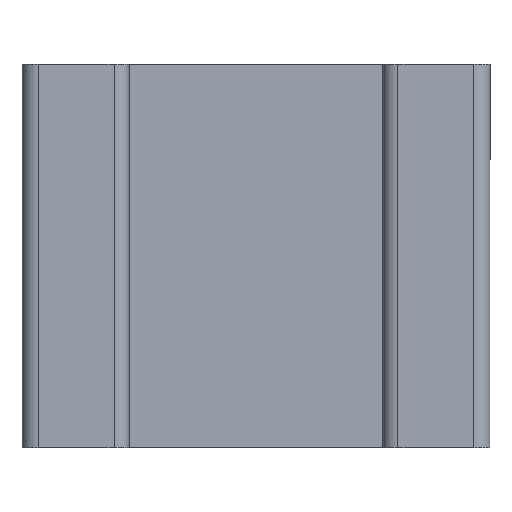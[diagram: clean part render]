
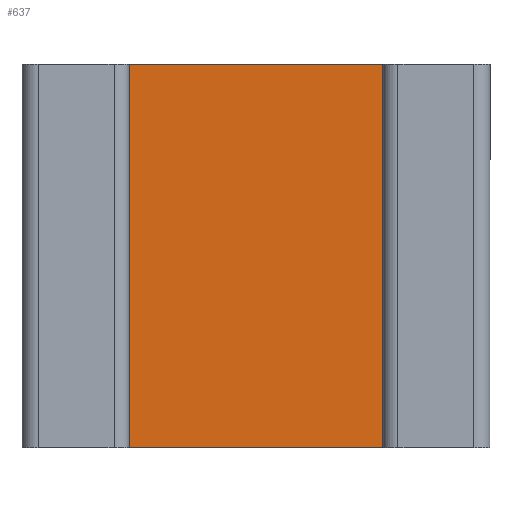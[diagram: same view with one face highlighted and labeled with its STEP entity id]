
A CAD part, front view. The second image highlights one B-rep face of the part: STEP entity #637.
In plain terms, the highlighted planar face has unit normal (0, -1, 0).
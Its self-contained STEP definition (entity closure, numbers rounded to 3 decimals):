
#1 = LINE ( 'NONE', #57, #556 ) ;
#16 = DIRECTION ( 'NONE',  ( 0., 0., 1. ) ) ;
#57 = CARTESIAN_POINT ( 'NONE',  ( -0.724, 0., -0.635 ) ) ;
#78 = FACE_OUTER_BOUND ( 'NONE', #264, .T. ) ;
#96 = EDGE_CURVE ( 'Defeatured_0_19+Defeatured_0_0+Defeatured_0_2+Defeatured_0_1', #231, #763, #527, .T. ) ;
#132 = CARTESIAN_POINT ( 'NONE',  ( 0.419, 0., -0.635 ) ) ;
#147 = VERTEX_POINT ( 'NONE', #483 ) ;
#200 = CARTESIAN_POINT ( 'NONE',  ( -0.419, 0., 0.635 ) ) ;
#231 = VERTEX_POINT ( 'NONE', #586 ) ;
#250 = CARTESIAN_POINT ( 'NONE',  ( -0.724, 0., 0.635 ) ) ;
#263 = ORIENTED_EDGE ( 'NONE', *, *, #96, .F. ) ;
#264 = EDGE_LOOP ( 'NONE', ( #361, #298, #263, #579 ) ) ;
#270 = EDGE_CURVE ( 'Defeatured_0_1+Defeatured_0_0+Defeatured_0_19+Defeatured_0_18', #763, #147, #770, .T. ) ;
#277 = DIRECTION ( 'NONE',  ( 0., 1., 0. ) ) ;
#298 = ORIENTED_EDGE ( 'NONE', *, *, #270, .F. ) ;
#331 = DIRECTION ( 'NONE',  ( 0., 0., -1. ) ) ;
#357 = VECTOR ( 'NONE', #331, 1000. ) ;
#361 = ORIENTED_EDGE ( 'NONE', *, *, #668, .F. ) ;
#384 = DIRECTION ( 'NONE',  ( 1., 0., 0. ) ) ;
#434 = VECTOR ( 'NONE', #384, 1000. ) ;
#437 = VECTOR ( 'NONE', #457, 1000. ) ;
#457 = DIRECTION ( 'NONE',  ( 0., 0., 1. ) ) ;
#461 = CARTESIAN_POINT ( 'NONE',  ( 0.419, 0., -0.635 ) ) ;
#464 = AXIS2_PLACEMENT_3D ( 'NONE', #658, #277, #16 ) ;
#470 = PLANE ( 'NONE',  #464 ) ;
#483 = CARTESIAN_POINT ( 'NONE',  ( 0.419, 0., 0.635 ) ) ;
#519 = EDGE_CURVE ( 'Defeatured_0_2+Defeatured_0_0+Defeatured_0_18+Defeatured_0_19', #736, #231, #1, .T. ) ;
#527 = LINE ( 'NONE', #713, #437 ) ;
#556 = VECTOR ( 'NONE', #561, 1000. ) ;
#561 = DIRECTION ( 'NONE',  ( -1., 0., 0. ) ) ;
#579 = ORIENTED_EDGE ( 'NONE', *, *, #519, .F. ) ;
#586 = CARTESIAN_POINT ( 'NONE',  ( -0.419, 0., -0.635 ) ) ;
#637 = ADVANCED_FACE ( 'Defeatured_0_0', ( #78 ), #470, .F. ) ;
#658 = CARTESIAN_POINT ( 'NONE',  ( 0., 0., 0. ) ) ;
#668 = EDGE_CURVE ( 'Defeatured_0_18+Defeatured_0_0+Defeatured_0_1+Defeatured_0_2', #147, #736, #706, .T. ) ;
#706 = LINE ( 'NONE', #132, #357 ) ;
#713 = CARTESIAN_POINT ( 'NONE',  ( -0.419, 0., -0.635 ) ) ;
#736 = VERTEX_POINT ( 'NONE', #461 ) ;
#763 = VERTEX_POINT ( 'NONE', #200 ) ;
#770 = LINE ( 'NONE', #250, #434 ) ;
